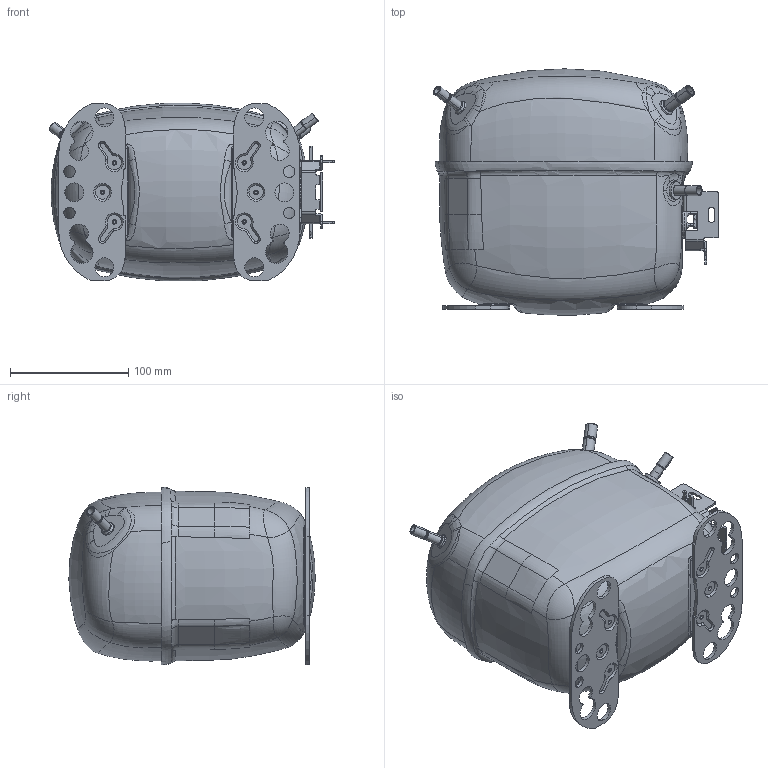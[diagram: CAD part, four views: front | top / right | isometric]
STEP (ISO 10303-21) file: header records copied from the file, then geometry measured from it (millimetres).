
FILE_DESCRIPTION((''),'2;1');
FILE_NAME('104L1696_SC12CLX2_ASM','2024-02-20T10:27:25',('CN6198'),(''),'CREO PARAMETRIC BY PTC INC, 2022162','CREO PARAMETRIC BY PTC INC, 2022162','');
FILE_SCHEMA(('CONFIG_CONTROL_DESIGN'));
Products named in the file (21): 104B0420_DES; 104B0321; 104B0504; 117-3617_BODY; 117-3617_PINS; 117-3617_GLASS_FUSED; 117-3617_ASM; 103N0510; 104B0378; 104B0407_AF0; 104B0053_ASM; 104B0673; 104B0635; 104B0676_BENT; 104B0686_BENT_ASM; 104B1012_ASM; 104B0601; 104B0683; 104B0682; 104B0075_ASM; 104L1696_SC12CLX2_ASM
Assembly tree (25 placements, depth 4):
  104L1696_SC12CLX2_ASM
    104B1012_ASM
      104B0420_DES
      104B0321  x2
      104B0504
      117-3617_ASM
        117-3617_BODY
        117-3617_PINS  x3
        117-3617_GLASS_FUSED  x3
      103N0510
      104B0053_ASM
        104B0378
        104B0407_AF0
      104B0686_BENT_ASM
        104B0673
        104B0635
        104B0676_BENT
    104B0075_ASM
      104B0601
      104B0683
      104B0682
Bounding box: 241.49 x 208.54 x 150.73 mm (x, y, z)
Volume: 484317.9 mm3; surface area: 345066.5 mm2
Topology: 20 solids, 20 shells, 1194 faces, 2967 edges, 1799 vertices
Faces by surface type: bspline 398, cylinder 268, plane 253, cone 114, torus 102, sphere 34, extrusion 13, revolution 12
Entity records: 111125 total; most frequent: CARTESIAN_POINT 88439, ORIENTED_EDGE 5154, DIRECTION 3834, EDGE_CURVE 2577, VERTEX_POINT 1584, AXIS2_PLACEMENT_3D 1513, EDGE_LOOP 1109, FACE_OUTER_BOUND 1041
